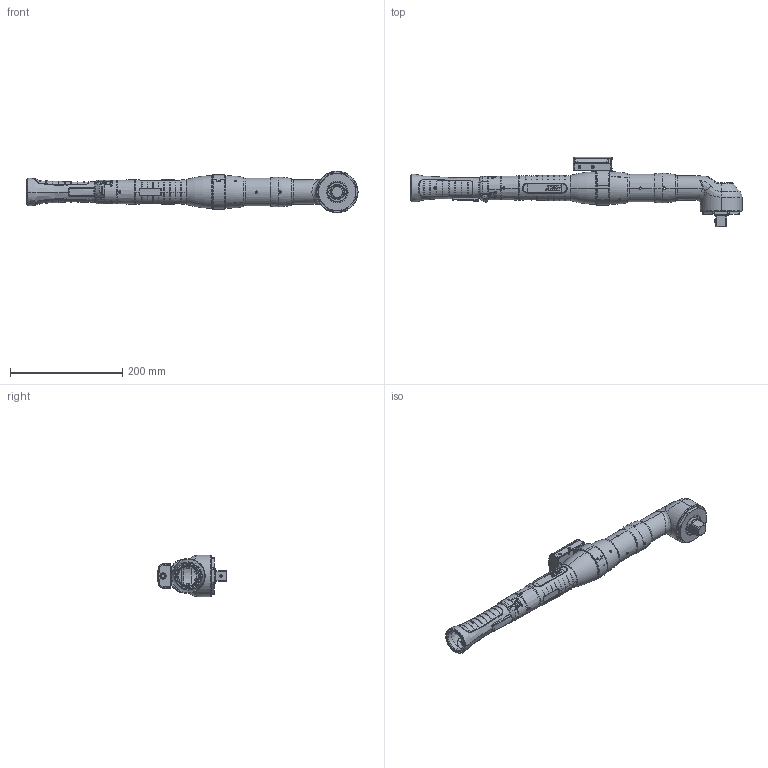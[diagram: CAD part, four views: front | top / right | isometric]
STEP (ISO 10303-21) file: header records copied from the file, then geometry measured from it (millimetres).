
FILE_DESCRIPTION (( 'STEP AP214' ), '1' );
FILE_NAME ('7900207_HCX2250WV34_Scanner.STEP', '2012-02-07T16:27:16', ( ' ' ), ( '' ), 'SwSTEP 2.0', 'SolidWorks 2009', '' );
FILE_SCHEMA (( 'AUTOMOTIVE_DESIGN' ));
Length unit declared in the file: millimetre
Products named in the file (1): 7900207_HCX2250WV34_Scanner
Bounding box: 591 x 124 x 74 mm (x, y, z)
Surface area: 132825 mm2 (no closed solid volume)
Topology: 0 solids, 59 shells, 1135 faces, 4025 edges, 2805 vertices
Faces by surface type: cylinder 325, plane 301, torus 265, bspline 170, cone 50, sphere 24
Entity records: 70412 total; most frequent: CARTESIAN_POINT 25924, DIRECTION 6556, ORIENTED_EDGE 6193, EDGE_CURVE 4002, VERTEX_POINT 2796, AXIS2_PLACEMENT_3D 2721, CIRCLE 1755, EDGE_LOOP 1277
